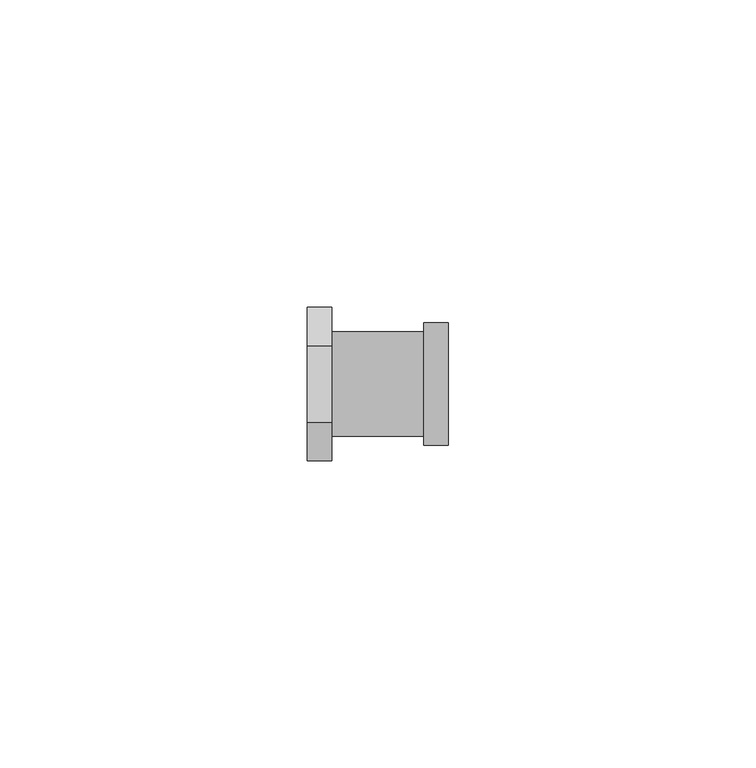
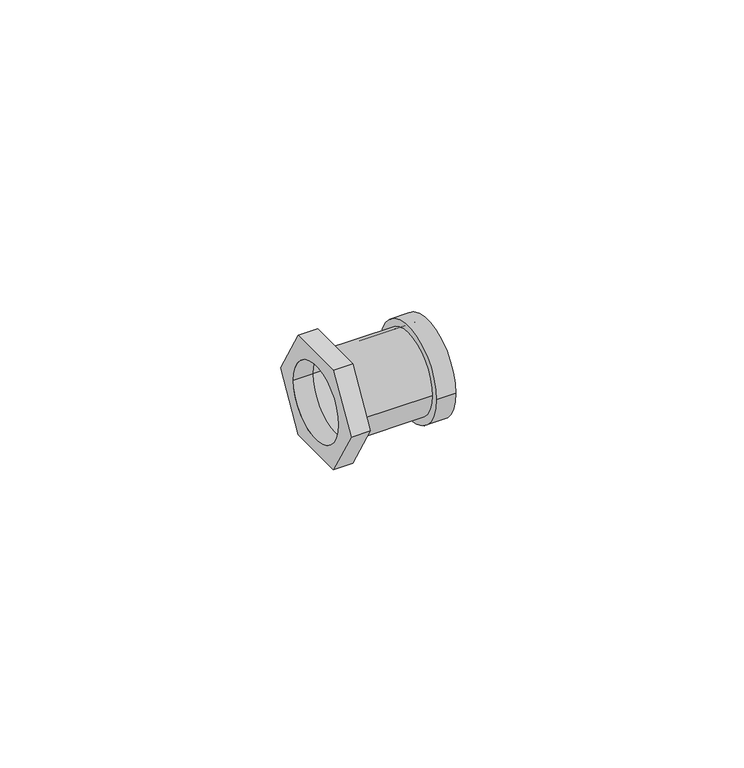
"""IFC4 building model written with IfcOpenShell, lengths in millimetres: pipe fitting geometry, БИР ПЕКС_НПР_Соединитель_Гайка накидная : Соединитель прямой с накидной гайкой."""

from ifc_helpers import new_model, si_unit, point, frame, origin, origin_2d, place, context, project, spatial, polyline, circle_curve, trimmed, segment, composite_curve, outline, extrude, source, transform, mapped, element, save


def pipe_fitting_369d1954(model_context):
    return source(origin(), model_context, "Body", "SweptSolid", [
        extrude(outline(polyline([(-6.25, -10.8253175), (-12.5, 0.0), (-6.25, 10.8253175), (6.25, 10.8253175), (12.5, 0.0), (6.25, -10.8253175), (-6.25, -10.8253175)]), holes=[composite_curve([segment(trimmed(circle_curve(origin_2d(), 8.0), [point((-8.0, 0.0))], [point((8.0, 0.0))], True, "CARTESIAN"), True, "CONTINUOUS"), segment(trimmed(circle_curve(origin_2d(), 8.0), [point((8.0, 0.0))], [point((-8.0, 0.0))], True, "CARTESIAN"), True, "CONTINUOUS")], self_intersect=False)]), frame((-11.5, 0.0, 0.0), z_axis=(1.0, 0.0, 0.0), x_axis=(0.0, 1.0, 0.0)), (0.0, 0.0, 1.0), 4.0),
        extrude(outline(composite_curve([segment(trimmed(circle_curve(origin_2d(), 8.5), [point((-8.5, 0.0))], [point((8.5, 0.0))], False, "CARTESIAN"), True, "CONTINUOUS"), segment(trimmed(circle_curve(origin_2d(), 8.5), [point((8.5, 0.0))], [point((-8.5, 0.0))], False, "CARTESIAN"), True, "CONTINUOUS")], self_intersect=False), holes=[composite_curve([segment(trimmed(circle_curve(origin_2d(), 8.0), [point((-8.0, 0.0))], [point((8.0, 0.0))], True, "CARTESIAN"), True, "CONTINUOUS"), segment(trimmed(circle_curve(origin_2d(), 8.0), [point((8.0, 0.0))], [point((-8.0, 0.0))], True, "CARTESIAN"), True, "CONTINUOUS")], self_intersect=False)]), frame((-7.5, 0.0, 0.0), z_axis=(1.0, 0.0, 0.0), x_axis=(0.0, 1.0, 0.0)), (0.0, 0.0, 1.0), 15.0),
        extrude(outline(composite_curve([segment(trimmed(circle_curve(origin_2d(), 10.0), [point((-10.0, 0.0))], [point((10.0, 0.0))], False, "CARTESIAN"), True, "CONTINUOUS"), segment(trimmed(circle_curve(origin_2d(), 10.0), [point((10.0, 0.0))], [point((-10.0, 0.0))], False, "CARTESIAN"), True, "CONTINUOUS")], self_intersect=False), holes=[composite_curve([segment(trimmed(circle_curve(origin_2d(), 8.0), [point((-8.0, 0.0))], [point((8.0, 0.0))], True, "CARTESIAN"), True, "CONTINUOUS"), segment(trimmed(circle_curve(origin_2d(), 8.0), [point((8.0, 0.0))], [point((-8.0, 0.0))], True, "CARTESIAN"), True, "CONTINUOUS")], self_intersect=False)]), frame((7.5, 0.0, 0.0), z_axis=(1.0, 0.0, 0.0), x_axis=(0.0, 1.0, 0.0)), (0.0, 0.0, 1.0), 4.0),
    ])


if __name__ == "__main__":
    model = new_model("IFC4")
    model_context = context("Model", 3, world=origin())
    ifc_project = project(units=[si_unit("LENGTHUNIT", "METRE", prefix="MILLI")], contexts=[model_context])
    site = spatial("IfcSite", under=ifc_project)
    building = spatial("IfcBuilding", under=site)
    placement = place(None, origin())
    pipe_fitting_shape = pipe_fitting_369d1954(model_context)
    element("IfcPipeFitting", 1, ObjectType="БИР ПЕКС_НПР_Соединитель_Гайка накидная : Соединитель прямой с накидной гайкой", at=placement, inside=building, context=model_context, shape_type="MappedRepresentation", body=[
        mapped(pipe_fitting_shape, transform((0.0, 0.0, 0.0), x_axis=(1.0, 0.0, 0.0), y_axis=(0.0, 1.0, 0.0), z_axis=(0.0, 0.0, 1.0))),
    ])
    save(model, "model.ifc")
